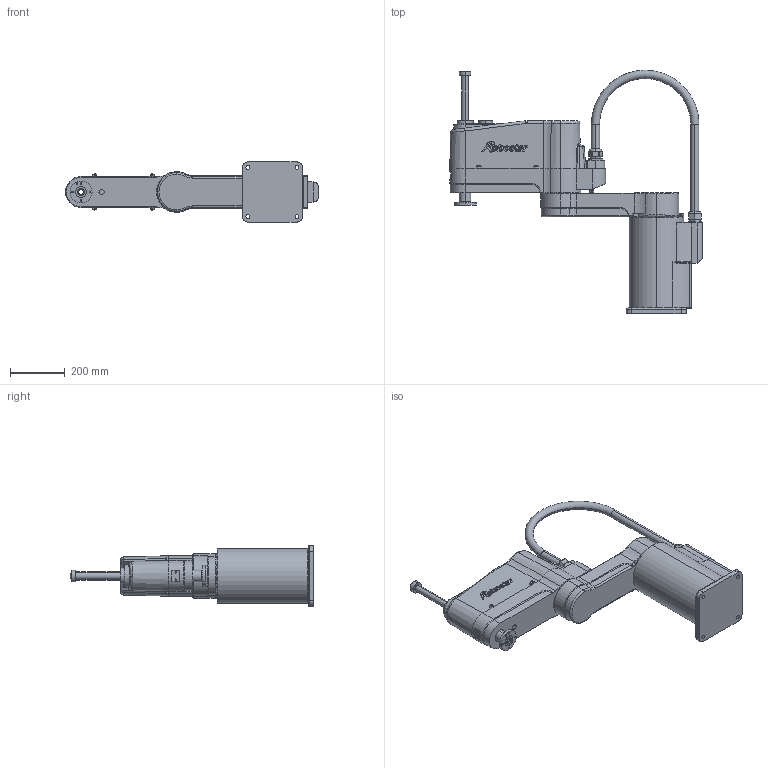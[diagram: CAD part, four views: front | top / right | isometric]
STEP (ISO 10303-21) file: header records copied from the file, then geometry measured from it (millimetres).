
FILE_DESCRIPTION (( 'STEP AP203' ), '1' );
FILE_NAME ('RPA70-4A(諼睡).STEP', '2022-07-26T06:52:36', ( 'user' ), ( '' ), 'SwSTEP 2.0', 'SolidWorks 2017', '' );
FILE_SCHEMA (( 'CONFIG_CONTROL_DESIGN' ));
Length unit declared in the file: millimetre
Products named in the file (6): A_Arm_RPA70-4A(B)(諼睡)_晦獄 撲薑; Base_RPA70-4A(B)(諼睡)_晦獄 撲薑; B_Arm_RPA70-4A(諼睡)_晦獄 撲薑; BNS2525_200ST_Shaft_RBSA70-4A(諼睡)_晦獄 撲薑; RPA70-4A(諼睡); Cable_RPA70-4A(B)(諼睡)_晦獄 撲薑
Assembly tree (5 placements, depth 2):
  RPA70-4A(諼睡)
    Base_RPA70-4A(B)(諼睡)_晦獄 撲薑
    A_Arm_RPA70-4A(B)(諼睡)_晦獄 撲薑
    B_Arm_RPA70-4A(諼睡)_晦獄 撲薑
    Cable_RPA70-4A(B)(諼睡)_晦獄 撲薑
    BNS2525_200ST_Shaft_RBSA70-4A(諼睡)_晦獄 撲薑
Bounding box: 925.5 x 890.75 x 220 mm (x, y, z)
Volume: 33185277.9 mm3; surface area: 1334363.9 mm2
Topology: 7 solids, 9 shells, 1510 faces, 4158 edges, 2716 vertices
Faces by surface type: plane 1159, cylinder 226, torus 71, bspline 32, cone 22
Entity records: 49854 total; most frequent: CARTESIAN_POINT 10614, ORIENTED_EDGE 8300, DIRECTION 7604, EDGE_CURVE 4150, LINE 3438, VECTOR 3438, VERTEX_POINT 2716, AXIS2_PLACEMENT_3D 2083
